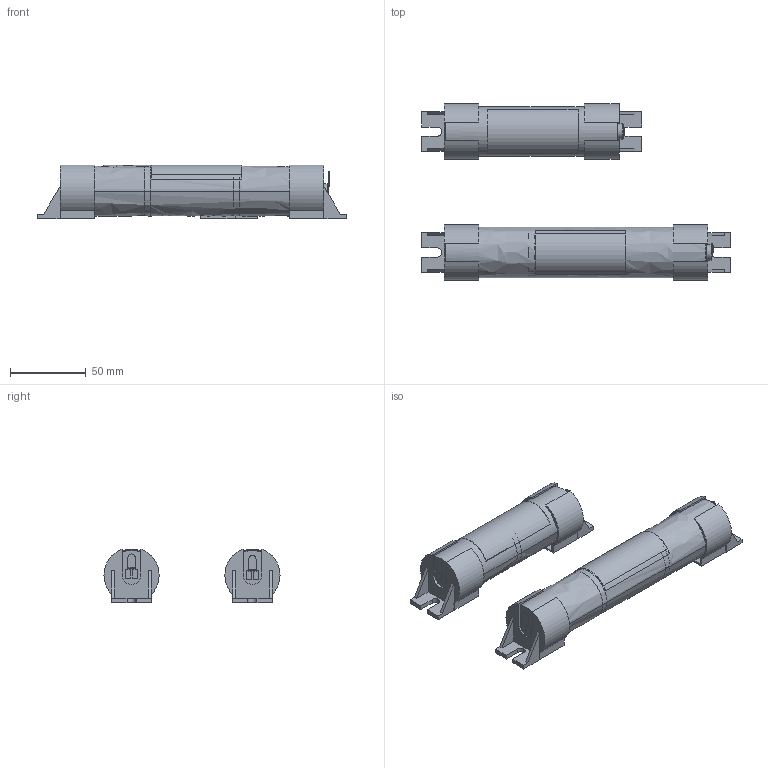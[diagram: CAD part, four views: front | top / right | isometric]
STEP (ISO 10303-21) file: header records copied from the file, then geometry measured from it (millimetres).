
FILE_DESCRIPTION((''),'2;1');
FILE_NAME('15012488Z_DMEC_89800087_5C-50','2018-07-11T14:02:06',('Emanuel.Wild'),(''),'CREO PARAMETRIC BY PTC INC, 2017380','CREO PARAMETRIC BY PTC INC, 2017380','');
FILE_SCHEMA(('AUTOMOTIVE_DESIGN { 1 0 10303 214 1 1 1 1 }'));
Length unit declared in the file: millimetre
Products named in the file (1): 15012488Z_DMEC_89800087_5C-50
Bounding box: 204.35 x 116.5 x 35.57 mm (x, y, z)
Volume: 261480 mm3; surface area: 68190.6 mm2
Topology: 3 solids, 10 shells, 453 faces, 1203 edges, 766 vertices
Faces by surface type: bspline 318, revolution 111, extrusion 24
Entity records: 19159 total; most frequent: CARTESIAN_POINT 8624, ORIENTED_EDGE 2390, DIRECTION 1505, EDGE_CURVE 1203, VERTEX_POINT 766, VECTOR 724, LINE 700, EDGE_LOOP 459
